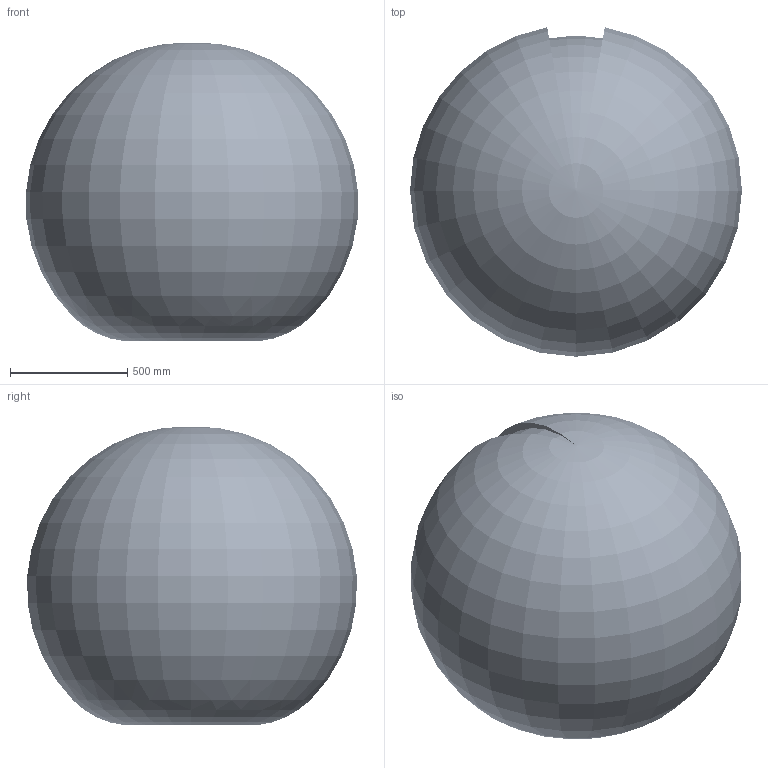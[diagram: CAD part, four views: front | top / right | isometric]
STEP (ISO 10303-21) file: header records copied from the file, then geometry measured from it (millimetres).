
FILE_DESCRIPTION(('STEP AP214'),'1');
FILE_NAME('TSR071-08B.stp','2022-02-23T01:31:13',(' '),(' '),'Spatial InterOp 3D',' ',' ');
FILE_SCHEMA(('AUTOMOTIVE_DESIGN { 1 0 10303 214 1 1 1 1 }'));
Length unit declared in the file: millimetre
Products named in the file (8): TSR071-08B; TSR071-08B-BASE; TSR071-08B-1; TSR071-08B-2; TSR071-08B-3; TSR071-08B-4; TSR071-08B-5; TSR071-08B-world
Assembly tree (7 placements, depth 2):
  TSR071-08B
    TSR071-08B-BASE
    TSR071-08B-1
    TSR071-08B-2
    TSR071-08B-3
    TSR071-08B-4
    TSR071-08B-5
    TSR071-08B-world
Bounding box: 1416.08 x 1405.32 x 1274.92 mm (x, y, z)
Volume: 1388448481.9 mm3; surface area: 9683428.1 mm2
Topology: 169 solids, 3651 shells, 18803 faces, 53294 edges, 38094 vertices
Faces by surface type: plane 7497, cylinder 4080, bspline 3276, torus 1902, cone 1605, sphere 443
Entity records: 993112 total; most frequent: CARTESIAN_POINT 353837, DIRECTION 89539, ORIENTED_EDGE 89316, EDGE_CURVE 52497, VERTEX_POINT 38092, AXIS2_PLACEMENT_3D 34275, STYLED_ITEM 22437, PRESENTATION_STYLE_ASSIGNMENT 22437
